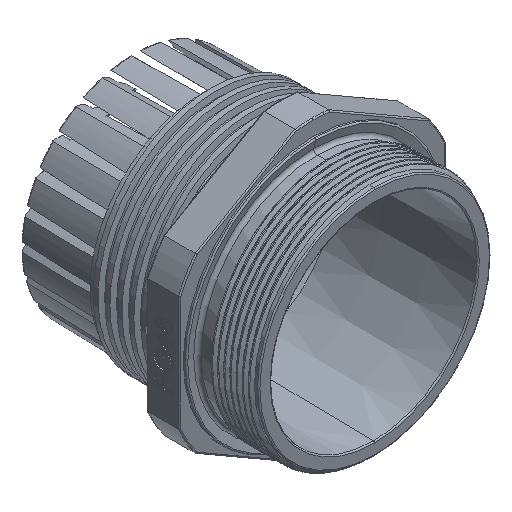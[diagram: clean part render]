
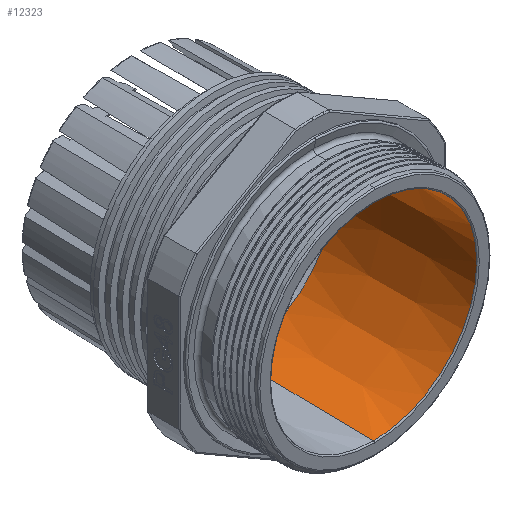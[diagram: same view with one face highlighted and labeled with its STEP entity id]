
A CAD part, isometric view. The second image highlights one B-rep face of the part: STEP entity #12323.
In plain terms, the highlighted conical face has half-angle 1 degrees and reference radius 25.093 mm.
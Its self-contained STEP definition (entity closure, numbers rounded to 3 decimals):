
#8 = DIRECTION ( 'NONE',  ( 0., 0., 1. ) ) ;
#1134 = EDGE_CURVE ( 'NONE', #18168, #1351, #6100, .T. ) ;
#1351 = VERTEX_POINT ( 'NONE', #19665 ) ;
#1901 = AXIS2_PLACEMENT_3D ( 'NONE', #17196, #8555, #8 ) ;
#2321 = VECTOR ( 'NONE', #13602, 1000. ) ;
#2665 = ORIENTED_EDGE ( 'NONE', *, *, #5065, .T. ) ;
#2771 = EDGE_LOOP ( 'NONE', ( #8531, #11835, #20365, #2665 ) ) ;
#4117 = DIRECTION ( 'NONE',  ( 0., -1., 0. ) ) ;
#5065 = EDGE_CURVE ( 'NONE', #1351, #10465, #10501, .T. ) ;
#5238 = CONICAL_SURFACE ( 'NONE', #17422, 25.093, 0.017 ) ;
#5355 = VERTEX_POINT ( 'NONE', #13349 ) ;
#6100 = LINE ( 'NONE', #13274, #2321 ) ;
#6158 = AXIS2_PLACEMENT_3D ( 'NONE', #14338, #4117, #10648 ) ;
#6924 = LINE ( 'NONE', #7271, #17733 ) ;
#7271 = CARTESIAN_POINT ( 'NONE',  ( 0., 0., 25.093 ) ) ;
#8531 = ORIENTED_EDGE ( 'NONE', *, *, #9910, .F. ) ;
#8555 = DIRECTION ( 'NONE',  ( 0., -1., 0. ) ) ;
#9910 = EDGE_CURVE ( 'NONE', #5355, #10465, #6924, .T. ) ;
#10431 = CARTESIAN_POINT ( 'NONE',  ( 0., 34., -24.5 ) ) ;
#10465 = VERTEX_POINT ( 'NONE', #10959 ) ;
#10501 = CIRCLE ( 'NONE', #1901, 25.088 ) ;
#10648 = DIRECTION ( 'NONE',  ( 0., 0., -1. ) ) ;
#10959 = CARTESIAN_POINT ( 'NONE',  ( 0., 0.295, 25.088 ) ) ;
#11061 = DIRECTION ( 'NONE',  ( 0., -1., 0. ) ) ;
#11835 = ORIENTED_EDGE ( 'NONE', *, *, #19433, .F. ) ;
#12323 = ADVANCED_FACE ( 'NONE', ( #14540 ), #5238, .F. ) ;
#12951 = CARTESIAN_POINT ( 'NONE',  ( 0., 0., 0. ) ) ;
#13274 = CARTESIAN_POINT ( 'NONE',  ( 0., 0., -25.093 ) ) ;
#13349 = CARTESIAN_POINT ( 'NONE',  ( 0., 34., 24.5 ) ) ;
#13602 = DIRECTION ( 'NONE',  ( 0., -1., -0.017 ) ) ;
#14338 = CARTESIAN_POINT ( 'NONE',  ( 0., 34., 0. ) ) ;
#14540 = FACE_OUTER_BOUND ( 'NONE', #2771, .T. ) ;
#15853 = CIRCLE ( 'NONE', #6158, 24.5 ) ;
#17196 = CARTESIAN_POINT ( 'NONE',  ( 0., 0.295, 0. ) ) ;
#17422 = AXIS2_PLACEMENT_3D ( 'NONE', #12951, #11061, #18015 ) ;
#17733 = VECTOR ( 'NONE', #20732, 1000. ) ;
#18015 = DIRECTION ( 'NONE',  ( 0., 0., -1. ) ) ;
#18168 = VERTEX_POINT ( 'NONE', #10431 ) ;
#19433 = EDGE_CURVE ( 'NONE', #18168, #5355, #15853, .T. ) ;
#19665 = CARTESIAN_POINT ( 'NONE',  ( 0., 0.295, -25.088 ) ) ;
#20365 = ORIENTED_EDGE ( 'NONE', *, *, #1134, .T. ) ;
#20732 = DIRECTION ( 'NONE',  ( 0., -1., 0.017 ) ) ;
